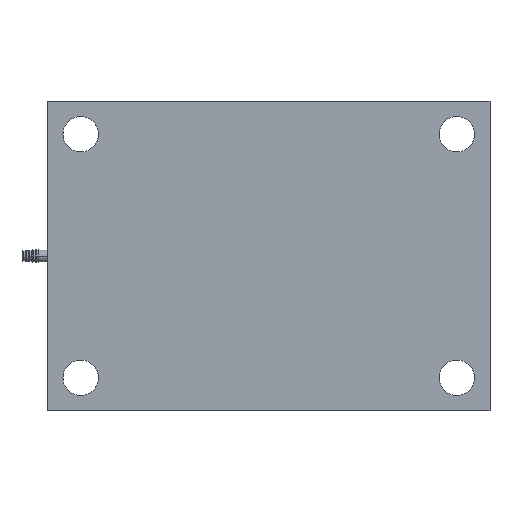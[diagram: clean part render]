
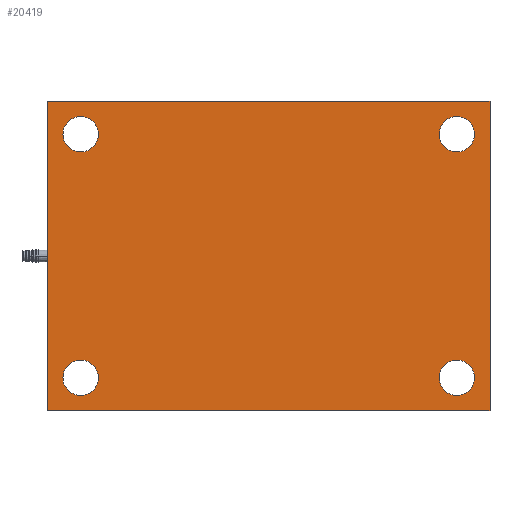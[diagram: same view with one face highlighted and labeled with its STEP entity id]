
A CAD part, front view. The second image highlights one B-rep face of the part: STEP entity #20419.
In plain terms, the highlighted planar face has unit normal (0, -1, 0).
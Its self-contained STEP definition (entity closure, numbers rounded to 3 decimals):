
#54 = EDGE_CURVE ( 'NONE', #2350, #12093, #261, .T. ) ;
#139 = CIRCLE ( 'NONE', #13566, 16. ) ;
#261 = CIRCLE ( 'NONE', #8329, 16. ) ;
#443 = FACE_BOUND ( 'NONE', #7677, .T. ) ;
#796 = CARTESIAN_POINT ( 'NONE',  ( 200., 0., 140. ) ) ;
#813 = LINE ( 'NONE', #17299, #13827 ) ;
#1223 = EDGE_LOOP ( 'NONE', ( #12027, #14733 ) ) ;
#1408 = DIRECTION ( 'NONE',  ( 0., 0., -1. ) ) ;
#1409 = EDGE_CURVE ( 'NONE', #8991, #15283, #6320, .T. ) ;
#1510 = ORIENTED_EDGE ( 'NONE', *, *, #54, .T. ) ;
#1549 = DIRECTION ( 'NONE',  ( 0., 1., 0. ) ) ;
#1719 = CARTESIAN_POINT ( 'NONE',  ( 170., 0., 126. ) ) ;
#1753 = CARTESIAN_POINT ( 'NONE',  ( -170., 0., -110. ) ) ;
#1867 = EDGE_CURVE ( 'NONE', #12093, #2350, #9341, .T. ) ;
#2125 = ORIENTED_EDGE ( 'NONE', *, *, #6827, .F. ) ;
#2142 = VERTEX_POINT ( 'NONE', #4120 ) ;
#2216 = CARTESIAN_POINT ( 'NONE',  ( 170., 0., -110. ) ) ;
#2350 = VERTEX_POINT ( 'NONE', #16107 ) ;
#2466 = VERTEX_POINT ( 'NONE', #8807 ) ;
#2540 = CARTESIAN_POINT ( 'NONE',  ( -170., 0., -110. ) ) ;
#2844 = EDGE_CURVE ( 'NONE', #21039, #2466, #12889, .T. ) ;
#3038 = AXIS2_PLACEMENT_3D ( 'NONE', #13260, #3487, #14893 ) ;
#3309 = VERTEX_POINT ( 'NONE', #13912 ) ;
#3386 = DIRECTION ( 'NONE',  ( 0., 0., 1. ) ) ;
#3487 = DIRECTION ( 'NONE',  ( 0., -1., 0. ) ) ;
#3675 = VERTEX_POINT ( 'NONE', #14775 ) ;
#3847 = DIRECTION ( 'NONE',  ( 0., 0., 1. ) ) ;
#4074 = CARTESIAN_POINT ( 'NONE',  ( 170., 0., 110. ) ) ;
#4120 = CARTESIAN_POINT ( 'NONE',  ( -200., 0., -140. ) ) ;
#4178 = DIRECTION ( 'NONE',  ( 0., 0., 1. ) ) ;
#4210 = AXIS2_PLACEMENT_3D ( 'NONE', #7507, #18892, #9159 ) ;
#4509 = EDGE_LOOP ( 'NONE', ( #15440, #9181, #7134, #8164 ) ) ;
#4668 = LINE ( 'NONE', #20072, #17162 ) ;
#4673 = CARTESIAN_POINT ( 'NONE',  ( 0., 0., 0. ) ) ;
#4675 = VERTEX_POINT ( 'NONE', #12383 ) ;
#4697 = EDGE_CURVE ( 'NONE', #3675, #6376, #17150, .T. ) ;
#4762 = CARTESIAN_POINT ( 'NONE',  ( -170., 0., 110. ) ) ;
#4797 = AXIS2_PLACEMENT_3D ( 'NONE', #1753, #13178, #3386 ) ;
#4812 = EDGE_LOOP ( 'NONE', ( #13144, #10034 ) ) ;
#5138 = CARTESIAN_POINT ( 'NONE',  ( -170., 0., -94. ) ) ;
#5302 = CIRCLE ( 'NONE', #19792, 16. ) ;
#5394 = DIRECTION ( 'NONE',  ( 0., 0., 1. ) ) ;
#5543 = CARTESIAN_POINT ( 'NONE',  ( -170., 0., 126. ) ) ;
#5711 = DIRECTION ( 'NONE',  ( 0., 0., -1. ) ) ;
#5783 = DIRECTION ( 'NONE',  ( 1., 0., 0. ) ) ;
#5863 = DIRECTION ( 'NONE',  ( -1., 0., 0. ) ) ;
#6178 = EDGE_LOOP ( 'NONE', ( #2125, #6454 ) ) ;
#6182 = CARTESIAN_POINT ( 'NONE',  ( 200., 0., -140. ) ) ;
#6320 = CIRCLE ( 'NONE', #18684, 16. ) ;
#6376 = VERTEX_POINT ( 'NONE', #5543 ) ;
#6386 = DIRECTION ( 'NONE',  ( 0., 0., -1. ) ) ;
#6454 = ORIENTED_EDGE ( 'NONE', *, *, #4697, .F. ) ;
#6667 = CIRCLE ( 'NONE', #4210, 16. ) ;
#6827 = EDGE_CURVE ( 'NONE', #6376, #3675, #11400, .T. ) ;
#7134 = ORIENTED_EDGE ( 'NONE', *, *, #18592, .F. ) ;
#7507 = CARTESIAN_POINT ( 'NONE',  ( 170., 0., -110. ) ) ;
#7677 = EDGE_LOOP ( 'NONE', ( #9703, #1510 ) ) ;
#7949 = DIRECTION ( 'NONE',  ( 0., 0., 1. ) ) ;
#8164 = ORIENTED_EDGE ( 'NONE', *, *, #2844, .F. ) ;
#8272 = CARTESIAN_POINT ( 'NONE',  ( 170., 0., 94. ) ) ;
#8329 = AXIS2_PLACEMENT_3D ( 'NONE', #2540, #13963, #4178 ) ;
#8807 = CARTESIAN_POINT ( 'NONE',  ( 200., 0., 140. ) ) ;
#8991 = VERTEX_POINT ( 'NONE', #8272 ) ;
#9134 = EDGE_CURVE ( 'NONE', #2142, #21039, #4668, .T. ) ;
#9159 = DIRECTION ( 'NONE',  ( 0., 0., 1. ) ) ;
#9181 = ORIENTED_EDGE ( 'NONE', *, *, #9779, .F. ) ;
#9341 = CIRCLE ( 'NONE', #4797, 16. ) ;
#9543 = CARTESIAN_POINT ( 'NONE',  ( 200., 0., 140. ) ) ;
#9703 = ORIENTED_EDGE ( 'NONE', *, *, #1867, .T. ) ;
#9779 = EDGE_CURVE ( 'NONE', #10795, #2142, #813, .T. ) ;
#10034 = ORIENTED_EDGE ( 'NONE', *, *, #17803, .F. ) ;
#10795 = VERTEX_POINT ( 'NONE', #6182 ) ;
#11331 = CARTESIAN_POINT ( 'NONE',  ( 170., 0., 110. ) ) ;
#11400 = CIRCLE ( 'NONE', #13710, 16. ) ;
#12027 = ORIENTED_EDGE ( 'NONE', *, *, #15493, .T. ) ;
#12093 = VERTEX_POINT ( 'NONE', #5138 ) ;
#12383 = CARTESIAN_POINT ( 'NONE',  ( 170., 0., -126. ) ) ;
#12744 = PLANE ( 'NONE',  #15780 ) ;
#12889 = LINE ( 'NONE', #796, #21007 ) ;
#12937 = FACE_OUTER_BOUND ( 'NONE', #4509, .T. ) ;
#12971 = DIRECTION ( 'NONE',  ( 0., 0., -1. ) ) ;
#13144 = ORIENTED_EDGE ( 'NONE', *, *, #14504, .F. ) ;
#13178 = DIRECTION ( 'NONE',  ( 0., 1., 0. ) ) ;
#13260 = CARTESIAN_POINT ( 'NONE',  ( -170., 0., 110. ) ) ;
#13440 = FACE_BOUND ( 'NONE', #4812, .T. ) ;
#13566 = AXIS2_PLACEMENT_3D ( 'NONE', #2216, #13628, #3847 ) ;
#13628 = DIRECTION ( 'NONE',  ( 0., -1., 0. ) ) ;
#13644 = FACE_BOUND ( 'NONE', #1223, .T. ) ;
#13710 = AXIS2_PLACEMENT_3D ( 'NONE', #4762, #16168, #6386 ) ;
#13827 = VECTOR ( 'NONE', #5863, 1000. ) ;
#13912 = CARTESIAN_POINT ( 'NONE',  ( 170., 0., -94. ) ) ;
#13963 = DIRECTION ( 'NONE',  ( 0., 1., 0. ) ) ;
#14504 = EDGE_CURVE ( 'NONE', #3309, #4675, #6667, .T. ) ;
#14733 = ORIENTED_EDGE ( 'NONE', *, *, #1409, .T. ) ;
#14775 = CARTESIAN_POINT ( 'NONE',  ( -170., 0., 94. ) ) ;
#14893 = DIRECTION ( 'NONE',  ( 0., 0., -1. ) ) ;
#14894 = LINE ( 'NONE', #9543, #19723 ) ;
#15283 = VERTEX_POINT ( 'NONE', #1719 ) ;
#15440 = ORIENTED_EDGE ( 'NONE', *, *, #9134, .F. ) ;
#15493 = EDGE_CURVE ( 'NONE', #15283, #8991, #5302, .T. ) ;
#15499 = DIRECTION ( 'NONE',  ( 0., 1., 0. ) ) ;
#15780 = AXIS2_PLACEMENT_3D ( 'NONE', #4673, #17724, #7949 ) ;
#16107 = CARTESIAN_POINT ( 'NONE',  ( -170., 0., -126. ) ) ;
#16130 = CARTESIAN_POINT ( 'NONE',  ( -200., 0., 140. ) ) ;
#16168 = DIRECTION ( 'NONE',  ( 0., -1., 0. ) ) ;
#17150 = CIRCLE ( 'NONE', #3038, 16. ) ;
#17162 = VECTOR ( 'NONE', #5394, 1000. ) ;
#17268 = FACE_BOUND ( 'NONE', #6178, .T. ) ;
#17299 = CARTESIAN_POINT ( 'NONE',  ( 200., 0., -140. ) ) ;
#17724 = DIRECTION ( 'NONE',  ( 0., 1., 0. ) ) ;
#17803 = EDGE_CURVE ( 'NONE', #4675, #3309, #139, .T. ) ;
#18592 = EDGE_CURVE ( 'NONE', #2466, #10795, #14894, .T. ) ;
#18684 = AXIS2_PLACEMENT_3D ( 'NONE', #4074, #15499, #5711 ) ;
#18892 = DIRECTION ( 'NONE',  ( 0., -1., 0. ) ) ;
#19723 = VECTOR ( 'NONE', #1408, 1000. ) ;
#19792 = AXIS2_PLACEMENT_3D ( 'NONE', #11331, #1549, #12971 ) ;
#20072 = CARTESIAN_POINT ( 'NONE',  ( -200., 0., 140. ) ) ;
#20419 = ADVANCED_FACE ( 'NONE', ( #17268, #13644, #13440, #443, #12937 ), #12744, .F. ) ;
#21007 = VECTOR ( 'NONE', #5783, 1000. ) ;
#21039 = VERTEX_POINT ( 'NONE', #16130 ) ;
